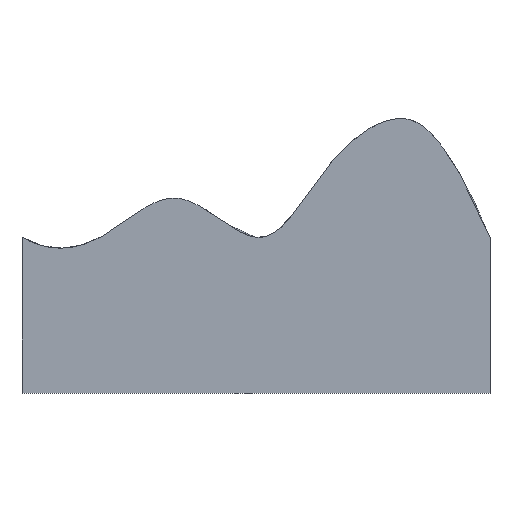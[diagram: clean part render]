
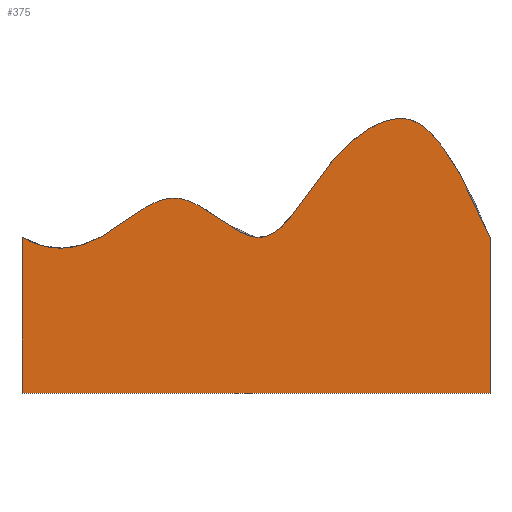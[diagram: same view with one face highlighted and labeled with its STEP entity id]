
A CAD part, top view. The second image highlights one B-rep face of the part: STEP entity #375.
In plain terms, the highlighted planar face has unit normal (0, 0, 1).
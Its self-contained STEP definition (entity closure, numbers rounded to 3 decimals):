
#24 = VERTEX_POINT('',#25);
#25 = CARTESIAN_POINT('',(-20.,-11.745,3.333
    ));
#32 = PLANE('',#33);
#33 = AXIS2_PLACEMENT_3D('',#34,#35,#36);
#34 = CARTESIAN_POINT('',(-20.,-11.745,
    -3.333));
#35 = DIRECTION('',(0.,1.,0.));
#36 = DIRECTION('',(1.,0.,0.));
#44 = PLANE('',#45);
#45 = AXIS2_PLACEMENT_3D('',#46,#47,#48);
#46 = CARTESIAN_POINT('',(-20.,1.589,-3.333
    ));
#47 = DIRECTION('',(1.,0.,-0.));
#48 = DIRECTION('',(0.,-1.,0.));
#56 = EDGE_CURVE('',#24,#57,#59,.T.);
#57 = VERTEX_POINT('',#58);
#58 = CARTESIAN_POINT('',(20.,-11.745,3.333
    ));
#59 = SURFACE_CURVE('',#60,(#64,#71),.PCURVE_S1.);
#60 = LINE('',#61,#62);
#61 = CARTESIAN_POINT('',(-20.,-11.745,3.333
    ));
#62 = VECTOR('',#63,1.);
#63 = DIRECTION('',(1.,0.,0.));
#64 = PCURVE('',#32,#65);
#65 = DEFINITIONAL_REPRESENTATION('',(#66),#70);
#66 = LINE('',#67,#68);
#67 = CARTESIAN_POINT('',(0.,-6.667));
#68 = VECTOR('',#69,1.);
#69 = DIRECTION('',(1.,0.));
#70 = ( GEOMETRIC_REPRESENTATION_CONTEXT(2) 
PARAMETRIC_REPRESENTATION_CONTEXT() REPRESENTATION_CONTEXT('2D SPACE',''
  ) );
#71 = PCURVE('',#72,#77);
#72 = PLANE('',#73);
#73 = AXIS2_PLACEMENT_3D('',#74,#75,#76);
#74 = CARTESIAN_POINT('',(0.877,-2.836,3.333)
  );
#75 = DIRECTION('',(0.,0.,1.));
#76 = DIRECTION('',(1.,0.,-0.));
#77 = DEFINITIONAL_REPRESENTATION('',(#78),#82);
#78 = LINE('',#79,#80);
#79 = CARTESIAN_POINT('',(-20.877,-8.908));
#80 = VECTOR('',#81,1.);
#81 = DIRECTION('',(1.,0.));
#82 = ( GEOMETRIC_REPRESENTATION_CONTEXT(2) 
PARAMETRIC_REPRESENTATION_CONTEXT() REPRESENTATION_CONTEXT('2D SPACE',''
  ) );
#100 = PLANE('',#101);
#101 = AXIS2_PLACEMENT_3D('',#102,#103,#104);
#102 = CARTESIAN_POINT('',(20.,-11.745,
    -3.333));
#103 = DIRECTION('',(-1.,0.,0.));
#104 = DIRECTION('',(0.,1.,0.));
#142 = EDGE_CURVE('',#57,#143,#145,.T.);
#143 = VERTEX_POINT('',#144);
#144 = CARTESIAN_POINT('',(20.,1.589,3.333
    ));
#145 = SURFACE_CURVE('',#146,(#150,#157),.PCURVE_S1.);
#146 = LINE('',#147,#148);
#147 = CARTESIAN_POINT('',(20.,-11.745,
    3.333));
#148 = VECTOR('',#149,1.);
#149 = DIRECTION('',(0.,1.,0.));
#150 = PCURVE('',#100,#151);
#151 = DEFINITIONAL_REPRESENTATION('',(#152),#156);
#152 = LINE('',#153,#154);
#153 = CARTESIAN_POINT('',(0.,-6.667));
#154 = VECTOR('',#155,1.);
#155 = DIRECTION('',(1.,0.));
#156 = ( GEOMETRIC_REPRESENTATION_CONTEXT(2) 
PARAMETRIC_REPRESENTATION_CONTEXT() REPRESENTATION_CONTEXT('2D SPACE',''
  ) );
#157 = PCURVE('',#72,#158);
#158 = DEFINITIONAL_REPRESENTATION('',(#159),#163);
#159 = LINE('',#160,#161);
#160 = CARTESIAN_POINT('',(19.123,-8.908));
#161 = VECTOR('',#162,1.);
#162 = DIRECTION('',(0.,1.));
#163 = ( GEOMETRIC_REPRESENTATION_CONTEXT(2) 
PARAMETRIC_REPRESENTATION_CONTEXT() REPRESENTATION_CONTEXT('2D SPACE',''
  ) );
#181 = SURFACE_OF_LINEAR_EXTRUSION('',#182,#193);
#182 = B_SPLINE_CURVE_WITH_KNOTS('',3,(#183,#184,#185,#186,#187,#188,
    #189,#190,#191,#192),.UNSPECIFIED.,.F.,.F.,(4,1,1,1,1,1,1,4),(0.,
    0.559,0.913,1.472,2.179,
    2.738,3.297,3.797),.UNSPECIFIED.);
#183 = CARTESIAN_POINT('',(20.,1.589,
    -3.333));
#184 = CARTESIAN_POINT('',(19.353,3.183,-3.333
    ));
#185 = CARTESIAN_POINT('',(17.426,7.569,-3.333
    ));
#186 = CARTESIAN_POINT('',(12.92,13.348,
    -3.333));
#187 = CARTESIAN_POINT('',(5.412,8.451,-3.333
    ));
#188 = CARTESIAN_POINT('',(1.154,-1.824,
    -3.333));
#189 = CARTESIAN_POINT('',(-6.842,7.526,-3.333
    ));
#190 = CARTESIAN_POINT('',(-12.916,0.741,-3.333
    ));
#191 = CARTESIAN_POINT('',(-17.595,0.231,
    -3.333));
#192 = CARTESIAN_POINT('',(-20.,1.589,
    -3.333));
#193 = VECTOR('',#194,1.);
#194 = DIRECTION('',(-0.,-0.,-1.));
#227 = EDGE_CURVE('',#143,#228,#230,.T.);
#228 = VERTEX_POINT('',#229);
#229 = CARTESIAN_POINT('',(-20.,1.589,3.333
    ));
#230 = SURFACE_CURVE('',#231,(#242,#249),.PCURVE_S1.);
#231 = B_SPLINE_CURVE_WITH_KNOTS('',3,(#232,#233,#234,#235,#236,#237,
    #238,#239,#240,#241),.UNSPECIFIED.,.F.,.F.,(4,1,1,1,1,1,1,4),(0.,
    0.559,0.913,1.472,2.179,
    2.738,3.297,3.797),.UNSPECIFIED.);
#232 = CARTESIAN_POINT('',(20.,1.589,3.333
    ));
#233 = CARTESIAN_POINT('',(19.353,3.183,3.333)
  );
#234 = CARTESIAN_POINT('',(17.426,7.569,3.333)
  );
#235 = CARTESIAN_POINT('',(12.92,13.348,
    3.333));
#236 = CARTESIAN_POINT('',(5.412,8.451,3.333)
  );
#237 = CARTESIAN_POINT('',(1.154,-1.824,3.333
    ));
#238 = CARTESIAN_POINT('',(-6.842,7.526,3.333)
  );
#239 = CARTESIAN_POINT('',(-12.916,0.741,3.333)
  );
#240 = CARTESIAN_POINT('',(-17.595,0.231,3.333
    ));
#241 = CARTESIAN_POINT('',(-20.,1.589,3.333
    ));
#242 = PCURVE('',#181,#243);
#243 = DEFINITIONAL_REPRESENTATION('',(#244),#248);
#244 = LINE('',#245,#246);
#245 = CARTESIAN_POINT('',(0.,-6.667));
#246 = VECTOR('',#247,1.);
#247 = DIRECTION('',(1.,0.));
#248 = ( GEOMETRIC_REPRESENTATION_CONTEXT(2) 
PARAMETRIC_REPRESENTATION_CONTEXT() REPRESENTATION_CONTEXT('2D SPACE',''
  ) );
#249 = PCURVE('',#72,#250);
#250 = DEFINITIONAL_REPRESENTATION('',(#251),#262);
#251 = B_SPLINE_CURVE_WITH_KNOTS('',3,(#252,#253,#254,#255,#256,#257,
    #258,#259,#260,#261),.UNSPECIFIED.,.F.,.F.,(4,1,1,1,1,1,1,4),(0.,
    0.559,0.913,1.472,2.179,
    2.738,3.297,3.797),.UNSPECIFIED.);
#252 = CARTESIAN_POINT('',(19.123,4.425));
#253 = CARTESIAN_POINT('',(18.476,6.02));
#254 = CARTESIAN_POINT('',(16.549,10.405));
#255 = CARTESIAN_POINT('',(12.042,16.184));
#256 = CARTESIAN_POINT('',(4.535,11.287));
#257 = CARTESIAN_POINT('',(0.277,1.012));
#258 = CARTESIAN_POINT('',(-7.719,10.362));
#259 = CARTESIAN_POINT('',(-13.793,3.577));
#260 = CARTESIAN_POINT('',(-18.472,3.067));
#261 = CARTESIAN_POINT('',(-20.877,4.425));
#262 = ( GEOMETRIC_REPRESENTATION_CONTEXT(2) 
PARAMETRIC_REPRESENTATION_CONTEXT() REPRESENTATION_CONTEXT('2D SPACE',''
  ) );
#326 = EDGE_CURVE('',#228,#24,#327,.T.);
#327 = SURFACE_CURVE('',#328,(#332,#339),.PCURVE_S1.);
#328 = LINE('',#329,#330);
#329 = CARTESIAN_POINT('',(-20.,1.589,3.333
    ));
#330 = VECTOR('',#331,1.);
#331 = DIRECTION('',(0.,-1.,0.));
#332 = PCURVE('',#44,#333);
#333 = DEFINITIONAL_REPRESENTATION('',(#334),#338);
#334 = LINE('',#335,#336);
#335 = CARTESIAN_POINT('',(0.,-6.667));
#336 = VECTOR('',#337,1.);
#337 = DIRECTION('',(1.,0.));
#338 = ( GEOMETRIC_REPRESENTATION_CONTEXT(2) 
PARAMETRIC_REPRESENTATION_CONTEXT() REPRESENTATION_CONTEXT('2D SPACE',''
  ) );
#339 = PCURVE('',#72,#340);
#340 = DEFINITIONAL_REPRESENTATION('',(#341),#345);
#341 = LINE('',#342,#343);
#342 = CARTESIAN_POINT('',(-20.877,4.425));
#343 = VECTOR('',#344,1.);
#344 = DIRECTION('',(0.,-1.));
#345 = ( GEOMETRIC_REPRESENTATION_CONTEXT(2) 
PARAMETRIC_REPRESENTATION_CONTEXT() REPRESENTATION_CONTEXT('2D SPACE',''
  ) );
#375 = ADVANCED_FACE('',(#376),#72,.T.);
#376 = FACE_BOUND('',#377,.T.);
#377 = EDGE_LOOP('',(#378,#379,#380,#381));
#378 = ORIENTED_EDGE('',*,*,#56,.T.);
#379 = ORIENTED_EDGE('',*,*,#142,.T.);
#380 = ORIENTED_EDGE('',*,*,#227,.T.);
#381 = ORIENTED_EDGE('',*,*,#326,.T.);
